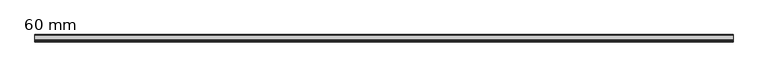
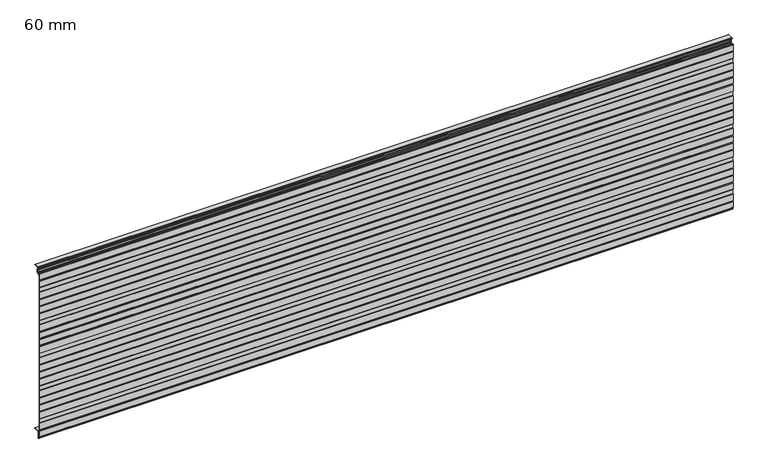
"""IFC4 building model written with IfcOpenShell, lengths in millimetres: plate geometry, HIANSA PANEL - H20.F02.002-PANELES DE FACHADA HORIZONTAL - PANEL PERFILADO - Panel de Muro Cortina : 60 mm."""

import ifcopenshell
import ifcopenshell.guid

model = None  # the IFC model being written
_history = None  # IfcOwnerHistory: only IFC2X3 demands one
_inside = {}  # id of a spatial element -> (the spatial element, [elements in it])
_under = {}  # id of a project, library or spatial element -> (it, [spatial elements below it])
_declared = {}  # id of a project -> (the project, [libraries it declares])
_typed = {}  # id of a type object -> (the type object, [elements of that type])
_made_of = {}  # id of a material, layer set ... -> (it, [elements and type objects made of it])


def new_model(schema):
    """Start an empty IFC model of exactly this schema.

    Asked for "IFC4X3", IfcOpenShell would pick the latest addendum, in which some entities
    have other attributes; the version numbers below select the first issue.
    IFC2X3 requires an IfcOwnerHistory on every rooted entity: one is made here for all.
    """
    global model, _history
    if schema == "IFC4X3":
        model = ifcopenshell.file(schema_version=(4, 3, 0, 0))
    else:
        model = ifcopenshell.file(schema=schema)
    _inside.clear()
    _under.clear()
    _declared.clear()
    _typed.clear()
    _made_of.clear()
    _history = None
    if model.schema == "IFC2X3":
        org = make("IfcOrganization", Name="unknown")
        user = make(
            "IfcPersonAndOrganization",
            ThePerson=make("IfcPerson", FamilyName="unknown"),
            TheOrganization=org,
        )
        app = make(
            "IfcApplication",
            ApplicationDeveloper=org,
            Version="unknown",
            ApplicationFullName="unknown",
            ApplicationIdentifier="unknown",
        )
        _history = make(
            "IfcOwnerHistory",
            OwningUser=user,
            OwningApplication=app,
            ChangeAction="ADDED",
            CreationDate=0,
        )
    return model


def make(cls, **values):
    """One entity of the class cls with the attributes given. An attribute that is None is left unset."""
    return model.create_entity(
        cls, **{name: value for name, value in values.items() if value is not None}
    )


def rooted(cls, **values):
    """An entity with a GlobalId (a new one), such as an element, a storey or a relation."""
    return make(cls, GlobalId=ifcopenshell.guid.new(), OwnerHistory=_history, **values)


def si_unit(unit_type, name, prefix=None):
    """IfcSIUnit, for example si_unit("LENGTHUNIT", "METRE", prefix="MILLI")."""
    return make("IfcSIUnit", UnitType=unit_type, Prefix=prefix, Name=name)


def assignment(units):
    """IfcUnitAssignment: the units of a project."""
    return None if units is None else make("IfcUnitAssignment", Units=units)


def point(xyz):
    """IfcCartesianPoint."""
    return None if xyz is None else make("IfcCartesianPoint", Coordinates=xyz)


def direction(xyz):
    """IfcDirection."""
    return None if xyz is None else make("IfcDirection", DirectionRatios=xyz)


def frame(location, z_axis=None, x_axis=None):
    """IfcAxis2Placement3D, a coordinate frame: its origin and axes. An axis left out is left unset."""
    return make(
        "IfcAxis2Placement3D",
        Location=point(location),
        Axis=direction(z_axis),
        RefDirection=direction(x_axis),
    )


def frame_2d(location, x_axis=None):
    """IfcAxis2Placement2D, a coordinate frame in the plane: its origin and x axis."""
    return make(
        "IfcAxis2Placement2D", Location=point(location), RefDirection=direction(x_axis)
    )


def origin():
    """The frame at (0, 0, 0) with its axes left unset."""
    return frame((0.0, 0.0, 0.0))


def place(relative_to, where):
    """IfcLocalPlacement: puts the frame where relative to a parent placement (None: the world)."""
    return make(
        "IfcLocalPlacement", PlacementRelTo=relative_to, RelativePlacement=where
    )


def context(
    kind, dimensions, precision=None, world=None, true_north=None, identifier=None
):
    """IfcGeometricRepresentationContext, for example the 3D "Model" context."""
    return make(
        "IfcGeometricRepresentationContext",
        ContextIdentifier=identifier,
        ContextType=kind,
        CoordinateSpaceDimension=dimensions,
        Precision=precision,
        WorldCoordinateSystem=world,
        TrueNorth=true_north,
    )


def project(units=None, contexts=None):
    """IfcProject with its units and contexts."""
    return rooted(
        "IfcProject",
        Name="project",
        RepresentationContexts=contexts,
        UnitsInContext=assignment(units),
    )


def spatial(cls, under=None, at=None, **own):
    """A site, building, storey or space (cls), placed at a placement, below another one or the project."""
    s = rooted(cls, ObjectPlacement=at, **own)
    if under is not None:
        _under.setdefault(under.id(), (under, []))[1].append(s)
    return s


def polyline(points):
    """IfcPolyline through the points."""
    return make("IfcPolyline", Points=[point(p) for p in points])


def circle_curve(where, radius):
    """IfcCircle in the frame where."""
    return make("IfcCircle", Position=where, Radius=radius)


def trimmed(basis, trim1, trim2, sense, master):
    """IfcTrimmedCurve: the piece of a basis curve between two trims."""
    return make(
        "IfcTrimmedCurve",
        BasisCurve=basis,
        Trim1=trim1,
        Trim2=trim2,
        SenseAgreement=sense,
        MasterRepresentation=master,
    )


def segment(curve, same_sense, transition):
    """IfcCompositeCurveSegment."""
    return make(
        "IfcCompositeCurveSegment",
        Transition=transition,
        SameSense=same_sense,
        ParentCurve=curve,
    )


def composite_curve(segments, self_intersect=None):
    """IfcCompositeCurve: segments joined end to end."""
    return make("IfcCompositeCurve", Segments=segments, SelfIntersect=self_intersect)


def outline(outer, holes=None, kind="AREA"):
    """IfcArbitraryClosedProfileDef: a profile drawn as a closed curve; with holes, ...WithVoids."""
    if holes is None:
        return make("IfcArbitraryClosedProfileDef", ProfileType=kind, OuterCurve=outer)
    return make(
        "IfcArbitraryProfileDefWithVoids",
        ProfileType=kind,
        OuterCurve=outer,
        InnerCurves=holes,
    )


def extrude(swept, where, along, depth):
    """IfcExtrudedAreaSolid: the profile swept, set in the frame where, extruded along a direction by depth."""
    return make(
        "IfcExtrudedAreaSolid",
        SweptArea=swept,
        Position=where,
        ExtrudedDirection=direction(along),
        Depth=depth,
    )


def shape(context_of_items, identifier, shape_type, items):
    """IfcShapeRepresentation: the items that make up one representation, for example the "Body"."""
    return make(
        "IfcShapeRepresentation",
        ContextOfItems=context_of_items,
        RepresentationIdentifier=identifier,
        RepresentationType=shape_type,
        Items=items,
    )


def source(mapping_origin, context_of_items, identifier, shape_type, items):
    """IfcRepresentationMap: a shape defined once, which mapped items show again and again."""
    return make(
        "IfcRepresentationMap",
        MappingOrigin=mapping_origin,
        MappedRepresentation=shape(context_of_items, identifier, shape_type, items),
    )


def transform(
    local_origin,
    x_axis=None,
    y_axis=None,
    z_axis=None,
    scale=None,
    scale2=None,
    scale3=None,
    uniform=True,
):
    """IfcCartesianTransformationOperator3D, or its non-uniform kind. x_axis, y_axis, z_axis: its Axis1, 2, 3."""
    if uniform:
        return make(
            "IfcCartesianTransformationOperator3D",
            Axis1=direction(x_axis),
            Axis2=direction(y_axis),
            LocalOrigin=point(local_origin),
            Scale=scale,
            Axis3=direction(z_axis),
        )
    return make(
        "IfcCartesianTransformationOperator3DnonUniform",
        Axis1=direction(x_axis),
        Axis2=direction(y_axis),
        LocalOrigin=point(local_origin),
        Scale=scale,
        Axis3=direction(z_axis),
        Scale2=scale2,
        Scale3=scale3,
    )


def mapped(mapping_source, mapping_target):
    """IfcMappedItem: shows the shape of a source again, moved by a transform."""
    return make(
        "IfcMappedItem", MappingSource=mapping_source, MappingTarget=mapping_target
    )


def made_of(thing, what):
    """Note that an element or type object is made of a material, layer set ...; save() writes the relation."""
    if what is not None:
        _made_of.setdefault(what.id(), (what, []))[1].append(thing)
    return thing


def element(
    cls,
    number,
    at=None,
    inside=None,
    cuts=None,
    type_object=None,
    material=None,
    context=None,
    identifier="Body",
    shape_type=None,
    held_by="IfcProductDefinitionShape",
    body=None,
    shapes=None,
    **own,
):
    """One element of the class cls, such as IfcWall. Its Tag is "e" and its number.

    at: its placement. inside: the storey or other place that contains it. cuts: it is an
    opening in that element (IfcRelVoidsElement). A single representation is given by context,
    identifier, shape_type and body (its items); several are given by shapes. held_by: the class
    of the entity that holds the representations. save() writes the other relations.
    """
    e = rooted(cls, Tag="e%d" % number, ObjectPlacement=at, **own)
    if body is not None:
        shapes = [shape(context, identifier, shape_type, body)]
    if shapes is not None:
        e.Representation = make(held_by, Representations=shapes)
    if inside is not None:
        _inside.setdefault(inside.id(), (inside, []))[1].append(e)
    if cuts is not None:
        rooted(
            "IfcRelVoidsElement", RelatingBuildingElement=cuts, RelatedOpeningElement=e
        )
    if type_object is not None:
        _typed.setdefault(type_object.id(), (type_object, []))[1].append(e)
    return made_of(e, material)


def aggregate(whole, parts):
    """IfcRelAggregates: a whole, such as a stair, and the parts it consists of."""
    return rooted("IfcRelAggregates", RelatingObject=whole, RelatedObjects=parts)


def save(model, path):
    """Write the relations noted so far, then the file.

    IfcRelAggregates (storeys below a building ...), IfcRelContainedInSpatialStructure (elements
    in a storey), IfcRelDefinesByType, IfcRelAssociatesMaterial and IfcRelDeclares: one each for
    every whole, place, type object, material and project.
    """
    for whole, parts in _under.values():
        aggregate(whole, parts)
    for where, things in _inside.values():
        rooted(
            "IfcRelContainedInSpatialStructure",
            RelatedElements=things,
            RelatingStructure=where,
        )
    for kind, things in _typed.values():
        rooted("IfcRelDefinesByType", RelatedObjects=things, RelatingType=kind)
    for what, things in _made_of.values():
        rooted("IfcRelAssociatesMaterial", RelatedObjects=things, RelatingMaterial=what)
    for by, libraries in _declared.values():
        rooted("IfcRelDeclares", RelatingContext=by, RelatedDefinitions=libraries)
    model.write(path)


def plate_60_mm_b1e50855(model_context):
    return source(origin(), model_context, "Body", "SweptSolid", [
        extrude(outline(polyline([(-43.7836621, 1123.0800953), (-43.012002, 1123.5800953), (-13.6987386, 1123.5800953), (-12.8994266, 1123.0800953), (-43.7836621, 1123.0800953)])), frame((-2200.0, 0.0, 0.0), z_axis=(1.0, 0.0, 0.0), x_axis=(0.0, 1.0, 0.0)), (0.0, 0.0, 1.0), 4400.0),
        extrude(outline(polyline([(-43.8274011, 25.6210465), (-12.9205789, 25.6210465), (-13.7002592, 25.1210465), (-43.0111357, 25.1210465), (-43.8274011, 25.6210465)])), frame((-2200.0, 0.0, 0.0), z_axis=(1.0, 0.0, 0.0), x_axis=(0.0, 1.0, 0.0)), (0.0, 0.0, 1.0), 4400.0),
        extrude(outline(composite_curve([segment(trimmed(circle_curve(frame_2d((-46.3367084, 23.0802198)), 2.54), [point((-48.8767084, 23.0802198))], [point((-46.3367084, 25.6202198))], False, "CARTESIAN"), True, "CONTINUOUS"), segment(polyline([(-46.3367084, 25.6202198), (-43.8260515, 25.6202198), (-43.0095828, 25.1200953), (-46.336632, 25.1202198)]), True, "CONTINUOUS"), segment(trimmed(circle_curve(frame_2d((-46.3367084, 23.0802198)), 2.04), [point((-46.336632, 25.1202198))], [point((-48.3767084, 23.0802198))], True, "CARTESIAN"), True, "CONTINUOUS"), segment(polyline([(-48.3767084, 23.0802198), (-48.3767084, -18.7009512)]), True, "CONTINUOUS"), segment(trimmed(circle_curve(frame_2d((-49.3767084, -18.7009512)), 1.0), [point((-48.3767084, -18.7009512))], [point((-49.3767084, -19.7009512))], False, "CARTESIAN"), True, "CONTINUOUS"), segment(polyline([(-49.3767084, -19.7009512), (-53.1267084, -19.7009512)]), True, "CONTINUOUS"), segment(trimmed(circle_curve(frame_2d((-53.1267084, -18.7009512)), 1.0), [point((-53.1267084, -19.7009512))], [point((-54.1267084, -18.7009512))], False, "CARTESIAN"), True, "CONTINUOUS"), segment(polyline([(-54.1267084, -18.7009512), (-54.1267084, -10.5354413)]), True, "CONTINUOUS"), segment(trimmed(circle_curve(frame_2d((-55.1267084, -10.5354413)), 1.0), [point((-54.1267084, -10.5354413))], [point((-55.1267084, -9.5354413))], True, "CARTESIAN"), True, "CONTINUOUS"), segment(polyline([(-55.1267084, -9.5354413), (-57.5159365, -9.5354413)]), True, "CONTINUOUS"), segment(trimmed(circle_curve(frame_2d((-57.5159365, -7.6351946)), 1.9002467), [point((-57.5159365, -9.5354413))], [point((-59.3594466, -8.0960721))], False, "CARTESIAN"), True, "CONTINUOUS"), segment(polyline([(-59.3594466, -8.0960721), (-59.9990488, -5.5376633), (-59.9990488, 33.6845589), (-58.9990488, 37.6845589), (-59.9990488, 41.6845589), (-59.9990488, 84.9067811), (-58.9990488, 87.9067811), (-58.9990488, 113.0187811), (-59.9990488, 116.0187811), (-59.9990488, 159.2410033), (-58.9990488, 163.2410033), (-59.9990488, 167.2410033), (-59.9990488, 206.4632255), (-58.9990488, 210.4632255), (-59.9990488, 214.4632255), (-59.9990488, 253.6854477), (-58.9990488, 257.6854477), (-59.9990488, 261.6854477), (-59.9990488, 304.9076699), (-58.9990488, 307.9076699), (-58.9990488, 333.0196699), (-59.9990488, 336.0196699), (-59.9990488, 379.2418921), (-58.9990488, 383.2418921), (-59.9990488, 387.2418921), (-59.9990488, 426.4641143), (-58.9990488, 430.4641143), (-59.9990488, 434.4641143), (-59.9990488, 473.6863365), (-58.9990488, 477.6863365), (-59.9990488, 481.6863365), (-59.9990488, 524.9085587), (-58.9990488, 527.9085587), (-58.9990488, 553.0205587), (-59.9990488, 556.0205587), (-59.9990488, 599.2427809), (-58.9990488, 603.2427809), (-59.9990488, 607.2427809), (-59.9990488, 646.4650031), (-58.9990488, 650.4650031), (-59.9990488, 654.4650031), (-59.9990488, 693.6872253), (-58.9990488, 697.6872253), (-59.9990488, 701.6872253), (-59.9990488, 744.9094475), (-58.9990488, 747.9094475), (-58.9990488, 773.0214475), (-59.9990488, 776.0214475), (-59.9990488, 819.2436697), (-58.9990488, 823.2436697), (-59.9990488, 827.2436697), (-59.9990488, 866.4658919), (-58.9990488, 870.4658919), (-59.9990488, 874.4658919), (-59.9990488, 913.6881141), (-58.9990488, 917.6881141), (-59.9990488, 921.6881141), (-59.9990488, 964.9103363), (-58.9990488, 967.9103363), (-58.9990488, 993.0223363), (-59.9990488, 996.0223363), (-59.9990488, 1039.2445585), (-58.9990488, 1043.2445585), (-59.9990488, 1047.2445585), (-59.9990488, 1086.4667807), (-59.3593999, 1089.0253764)]), True, "CONTINUOUS"), segment(trimmed(circle_curve(frame_2d((-57.5161291, 1088.5645587)), 1.9), [point((-59.3593999, 1089.0253764))], [point((-57.5161291, 1090.4645587))], False, "CARTESIAN"), True, "CONTINUOUS"), segment(polyline([(-57.5161291, 1090.4645587), (-55.3767084, 1090.4645587)]), True, "CONTINUOUS"), segment(trimmed(circle_curve(frame_2d((-55.3767084, 1089.4645587)), 1.0), [point((-55.3767084, 1090.4645587))], [point((-54.3767084, 1089.4645587))], False, "CARTESIAN"), True, "CONTINUOUS"), segment(polyline([(-54.3767084, 1089.4645587), (-54.3767084, 1080.7990488)]), True, "CONTINUOUS"), segment(trimmed(circle_curve(frame_2d((-53.3767084, 1080.7990488)), 1.0), [point((-54.3767084, 1080.7990488))], [point((-53.3767084, 1079.7990488))], True, "CARTESIAN"), True, "CONTINUOUS"), segment(polyline([(-53.3767084, 1079.7990488), (-49.1267084, 1079.7990488)]), True, "CONTINUOUS"), segment(trimmed(circle_curve(frame_2d((-49.1267084, 1080.7990488)), 1.0), [point((-49.1267084, 1079.7990488))], [point((-48.1267084, 1080.7990488))], True, "CARTESIAN"), True, "CONTINUOUS"), segment(polyline([(-48.1267084, 1080.7990488), (-48.1267084, 1082.4003519)]), True, "CONTINUOUS"), segment(trimmed(circle_curve(frame_2d((-46.1267084, 1082.4003519)), 2.0), [point((-48.1267084, 1082.4003519))], [point((-47.2738613, 1084.038656))], False, "CARTESIAN"), True, "CONTINUOUS"), segment(polyline([(-47.2738613, 1084.038656), (-41.2163437, 1088.2801754)]), True, "CONTINUOUS"), segment(trimmed(circle_curve(frame_2d((-42.0767084, 1089.5089035)), 1.5), [point((-41.2163437, 1088.2801754))], [point((-40.5767084, 1089.5089035))], True, "CARTESIAN"), True, "CONTINUOUS"), segment(polyline([(-40.5767084, 1089.5089035), (-40.5767084, 1098.7402031), (-39.6767084, 1100.2990488), (-40.5767084, 1101.8578945), (-40.5767084, 1111.0891941)]), True, "CONTINUOUS"), segment(trimmed(circle_curve(frame_2d((-42.0767084, 1111.0891941)), 1.5), [point((-40.5767084, 1111.0891941))], [point((-41.2163437, 1112.3179221))], True, "CARTESIAN"), True, "CONTINUOUS"), segment(polyline([(-41.2163437, 1112.3179221), (-47.2738613, 1116.5594416)]), True, "CONTINUOUS"), segment(trimmed(circle_curve(frame_2d((-46.1267084, 1118.1977457)), 2.0), [point((-47.2738613, 1116.5594416))], [point((-48.1267084, 1118.1977457))], False, "CARTESIAN"), True, "CONTINUOUS"), segment(polyline([(-48.1267084, 1118.1977457), (-48.1267084, 1121.5800953)]), True, "CONTINUOUS"), segment(trimmed(circle_curve(frame_2d((-46.1267084, 1121.5800953)), 2.0), [point((-48.1267084, 1121.5800953))], [point((-46.1267084, 1123.5800953))], False, "CARTESIAN"), True, "CONTINUOUS"), segment(polyline([(-46.1267084, 1123.5800953), (-43.0095828, 1123.5800953), (-43.7812429, 1123.0800953), (-46.1267084, 1123.0800953)]), True, "CONTINUOUS"), segment(trimmed(circle_curve(frame_2d((-46.1267084, 1121.5800953)), 1.5), [point((-46.1267084, 1123.0800953))], [point((-47.6267084, 1121.5800953))], True, "CARTESIAN"), True, "CONTINUOUS"), segment(polyline([(-47.6267084, 1121.5800953), (-47.6267084, 1118.1977457)]), True, "CONTINUOUS"), segment(trimmed(circle_curve(frame_2d((-46.1267084, 1118.1977457)), 1.5), [point((-47.6267084, 1118.1977457))], [point((-46.987073, 1116.9690176))], True, "CARTESIAN"), True, "CONTINUOUS"), segment(polyline([(-46.987073, 1116.9690176), (-40.9295555, 1112.7274982)]), True, "CONTINUOUS"), segment(trimmed(circle_curve(frame_2d((-42.0767084, 1111.0891941)), 2.0), [point((-40.9295555, 1112.7274982))], [point((-40.0767084, 1111.0891941))], False, "CARTESIAN"), True, "CONTINUOUS"), segment(polyline([(-40.0767084, 1111.0891941), (-40.0767084, 1101.9918691), (-39.3880333, 1100.7990488)]), True, "CONTINUOUS"), segment(trimmed(circle_curve(frame_2d((-40.2540587, 1100.2990488)), 1.0), [point((-39.3880333, 1100.7990488))], [point((-39.3880333, 1099.7990488))], False, "CARTESIAN"), True, "CONTINUOUS"), segment(polyline([(-39.3880333, 1099.7990488), (-40.0767084, 1098.6062285), (-40.0767084, 1089.5089035)]), True, "CONTINUOUS"), segment(trimmed(circle_curve(frame_2d((-42.0767084, 1089.5089035)), 2.0), [point((-40.0767084, 1089.5089035))], [point((-40.9295555, 1087.8705994))], False, "CARTESIAN"), True, "CONTINUOUS"), segment(polyline([(-40.9295555, 1087.8705994), (-46.987073, 1083.62908)]), True, "CONTINUOUS"), segment(trimmed(circle_curve(frame_2d((-46.1267084, 1082.4003519)), 1.5), [point((-46.987073, 1083.62908))], [point((-47.6267084, 1082.4003519))], True, "CARTESIAN"), True, "CONTINUOUS"), segment(polyline([(-47.6267084, 1082.4003519), (-47.6267084, 1080.7990488)]), True, "CONTINUOUS"), segment(trimmed(circle_curve(frame_2d((-49.1267084, 1080.7990488)), 1.5), [point((-47.6267084, 1080.7990488))], [point((-49.1267084, 1079.2990488))], False, "CARTESIAN"), True, "CONTINUOUS"), segment(polyline([(-49.1267084, 1079.2990488), (-53.3767084, 1079.2990488)]), True, "CONTINUOUS"), segment(trimmed(circle_curve(frame_2d((-53.3767084, 1080.7990488)), 1.5), [point((-53.3767084, 1079.2990488))], [point((-54.8767084, 1080.7990488))], False, "CARTESIAN"), True, "CONTINUOUS"), segment(polyline([(-54.8767084, 1080.7990488), (-54.8767084, 1089.9645587), (-57.5161291, 1089.9645587)]), True, "CONTINUOUS"), segment(trimmed(circle_curve(frame_2d((-57.5161291, 1088.5645587)), 1.4), [point((-57.5161291, 1089.9645587))], [point((-58.8743286, 1088.9041086))], True, "CARTESIAN"), True, "CONTINUOUS"), segment(polyline([(-58.8743286, 1088.9041086), (-59.4990488, 1086.4052279), (-59.4990488, 1047.3061113), (-58.4836606, 1043.2445585), (-59.4990488, 1039.1830057), (-59.4990488, 996.1034751), (-58.4990488, 993.1034751), (-58.4990488, 967.8291975), (-59.4990488, 964.8291975), (-59.4990488, 921.7496669), (-58.4836606, 917.6881141), (-59.4990488, 913.6265613), (-59.4990488, 874.5274447), (-58.4836606, 870.4658919), (-59.4990488, 866.4043391), (-59.4990488, 827.3052225), (-58.4836606, 823.2436697), (-59.4990488, 819.1821169), (-59.4990488, 776.1025863), (-58.4990488, 773.1025863), (-58.4990488, 747.8283087), (-59.4990488, 744.8283087), (-59.4990488, 701.7487781), (-58.4836606, 697.6872253), (-59.4990488, 693.6256725), (-59.4990488, 654.5265559), (-58.4836606, 650.4650031), (-59.4990488, 646.4034503), (-59.4990488, 607.3043337), (-58.4836606, 603.2427809), (-59.4990488, 599.1812281), (-59.4990488, 556.1016975), (-58.4990488, 553.1016975), (-58.4990488, 527.8274199), (-59.4990488, 524.8274199), (-59.4990488, 481.7478893), (-58.4836606, 477.6863365), (-59.4990488, 473.6247837), (-59.4990488, 434.5256671), (-58.4836606, 430.4641143), (-59.4990488, 426.4025615), (-59.4990488, 387.3034449), (-58.4836606, 383.2418921), (-59.4990488, 379.1803393), (-59.4990488, 336.1008087), (-58.4990488, 333.1008087), (-58.4990488, 307.8265311), (-59.4990488, 304.8265311), (-59.4990488, 261.7470005), (-58.4836606, 257.6854477), (-59.4990488, 253.6238949), (-59.4990488, 214.5247783), (-58.4836606, 210.4632255), (-59.4990488, 206.4016727), (-59.4990488, 167.3025561), (-58.4836606, 163.2410033), (-59.4990488, 159.1794505), (-59.4990488, 116.0999199), (-58.4990488, 113.0999199), (-58.4990488, 87.8256423), (-59.4990488, 84.8256423), (-59.4990488, 41.7461117), (-58.4836606, 37.6845589), (-59.4990488, 33.6230061), (-59.4990488, -5.4761105), (-58.8741312, -7.9757808)]), True, "CONTINUOUS"), segment(trimmed(circle_curve(frame_2d((-57.5169431, -7.6364838)), 1.3989577), [point((-58.8741312, -7.9757808))], [point((-57.5169431, -9.0354415))], True, "CARTESIAN"), True, "CONTINUOUS"), segment(polyline([(-57.5169431, -9.0354415), (-55.1267084, -9.0354413)]), True, "CONTINUOUS"), segment(trimmed(circle_curve(frame_2d((-55.1267084, -10.5354413)), 1.5), [point((-55.1267084, -9.0354413))], [point((-53.6267084, -10.5354413))], False, "CARTESIAN"), True, "CONTINUOUS"), segment(polyline([(-53.6267084, -10.5354413), (-53.6267084, -19.2009512), (-48.8767084, -19.2009512), (-48.8767084, 23.0802198)]), True, "CONTINUOUS")], self_intersect=False)), frame((-2200.0, 0.0, 0.0), z_axis=(1.0, 0.0, 0.0), x_axis=(0.0, 1.0, 0.0)), (0.0, 0.0, 1.0), 4400.0),
    ])


if __name__ == "__main__":
    model = new_model("IFC4")
    model_context = context("Model", 3, world=origin())
    ifc_project = project(units=[si_unit("LENGTHUNIT", "METRE", prefix="MILLI")], contexts=[model_context])
    site = spatial("IfcSite", under=ifc_project)
    building = spatial("IfcBuilding", under=site)
    placement = place(None, origin())
    plate_60_mm_shape = plate_60_mm_b1e50855(model_context)
    element("IfcPlate", 1, ObjectType="HIANSA PANEL - H20.F02.002-PANELES DE FACHADA HORIZONTAL - PANEL PERFILADO - Panel de Muro Cortina : 60 mm", at=placement, inside=building, context=model_context, shape_type="MappedRepresentation", body=[
        mapped(plate_60_mm_shape, transform((0.0, 0.0, 0.0), x_axis=(1.0, 0.0, 0.0), y_axis=(0.0, 1.0, 0.0), z_axis=(0.0, 0.0, 1.0))),
    ])
    save(model, "model.ifc")
